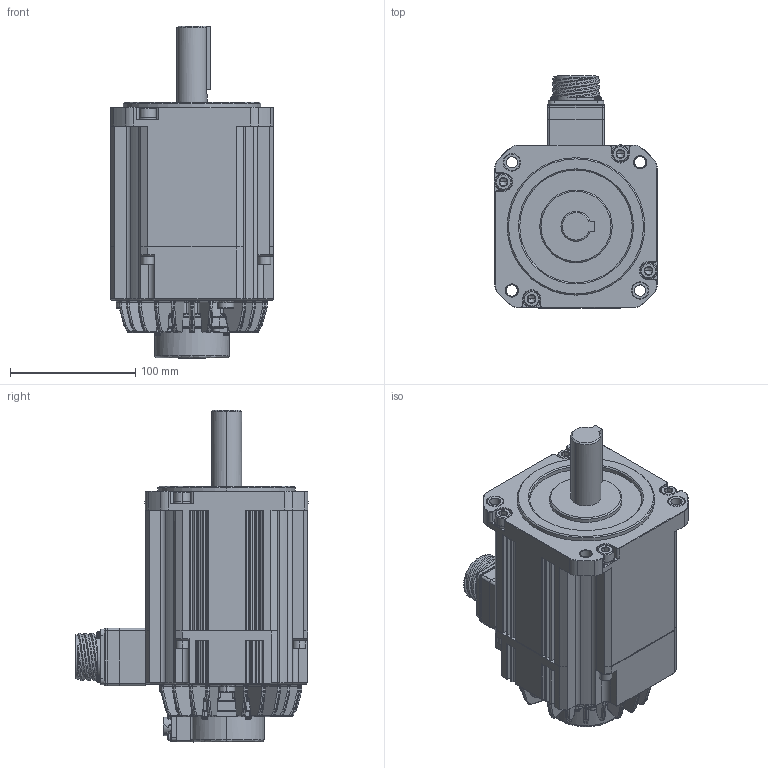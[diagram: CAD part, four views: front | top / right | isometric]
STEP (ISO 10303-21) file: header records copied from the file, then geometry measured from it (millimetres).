
FILE_DESCRIPTION (( 'STEP AP203' ), '1' );
FILE_NAME ('TSM3510N2373E722•Ð-1.STEP', '2018-06-29T02:43:54', ( '' ), ( '' ), 'SwSTEP 2.0', 'SolidWorks 2017', '' );
FILE_SCHEMA (( 'CONFIG_CONTROL_DESIGN' ));
Products named in the file (1): TSM3510N2373E722•Ð-1
Bounding box: 130.5 x 185.7 x 265.5 mm (x, y, z)
Surface area: 183103.8 mm2 (no closed solid volume)
Topology: 0 solids, 13 shells, 3116 faces, 7813 edges, 4719 vertices
Faces by surface type: bspline 1091, plane 1037, cylinder 768, cone 220
Entity records: 152549 total; most frequent: CARTESIAN_POINT 86609, ORIENTED_EDGE 15374, DIRECTION 11239, EDGE_CURVE 7708, VERTEX_POINT 4719, AXIS2_PLACEMENT_3D 3820, LINE 3599, VECTOR 3599
